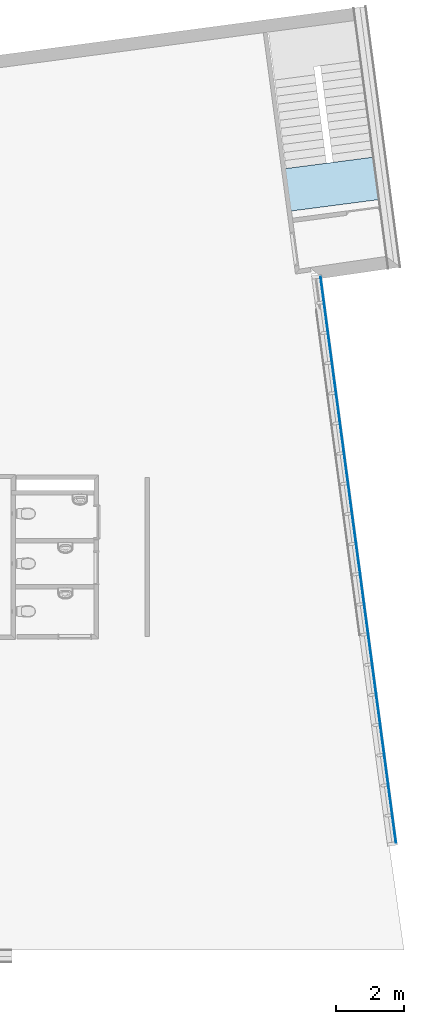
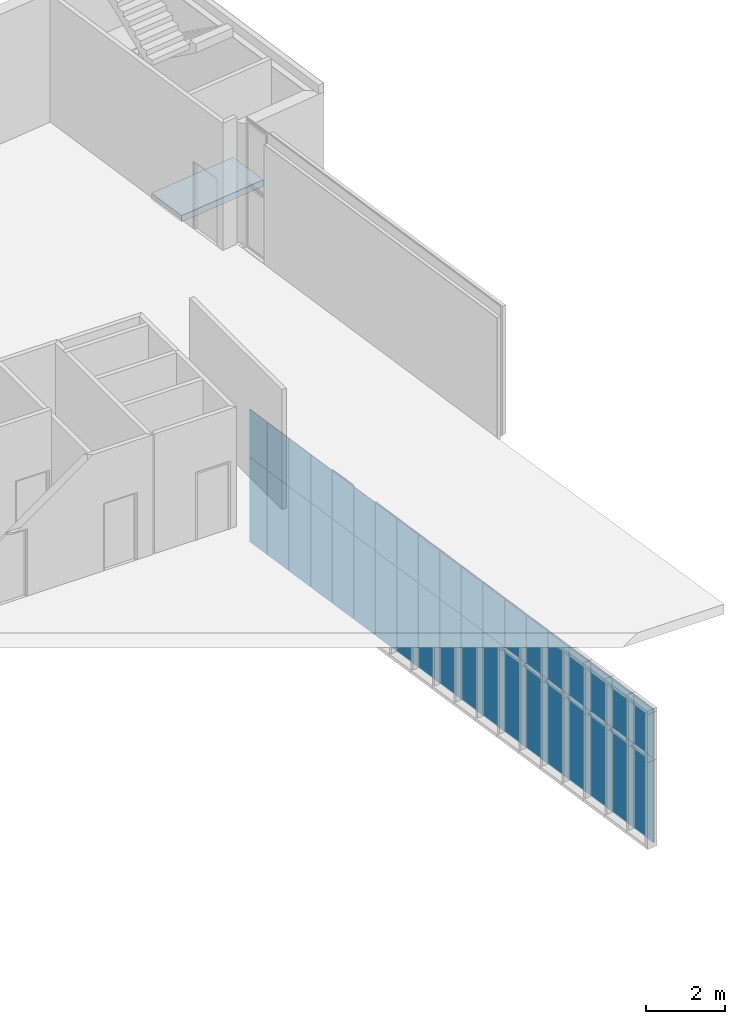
# One storey, part 5 of 17: 52 plates, 1 slab, 1 element without a shape of its own.
"""IFC2X3 building model written with IfcOpenShell, lengths in metres."""

from ifc_helpers import new_model, entity, si_unit, converted_unit, money_unit, direction, frame, origin_with_axes, place, context, subcontext, project, spatial, polyline, outline, extrude, material, layer, layer_set, layer_usage, type_object, element, aggregate, save


model = new_model("IFC2X3")

# Units and contexts
model_context = context("Model", 3, precision=1e-05, world=origin_with_axes(), true_north=direction((0.0, 1.0)))
body_context = subcontext(model_context, "Body", "Model", "MODEL_VIEW")
ifc_project = project(units=[si_unit("LENGTHUNIT", "METRE"), si_unit("AREAUNIT", "SQUARE_METRE"), si_unit("VOLUMEUNIT", "CUBIC_METRE"), converted_unit("PLANEANGLEUNIT", "DEGREE", entity("IfcPlaneAngleMeasure", 0.0174532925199), si_unit("PLANEANGLEUNIT", "RADIAN"), dimensions=[0, 0, 0, 0, 0, 0, 0]), si_unit("SOLIDANGLEUNIT", "STERADIAN"), money_unit("EUR"), converted_unit("TIMEUNIT", "Year", entity("IfcTimeMeasure", 31556926.0), si_unit("TIMEUNIT", "SECOND"), dimensions=[0, 0, 0, 0, 0, 0, 0]), si_unit("MASSUNIT", "GRAM"), si_unit("THERMODYNAMICTEMPERATUREUNIT", "DEGREE_CELSIUS"), si_unit("LUMINOUSINTENSITYUNIT", "LUMEN")], contexts=[model_context])

# Site, building, storey
site_placement = place(None, origin_with_axes())
site = spatial("IfcSite", under=ifc_project, at=site_placement, Name="Undefined", CompositionType="ELEMENT")
building_placement = place(site_placement, origin_with_axes())
building = spatial("IfcBuilding", under=site, at=building_placement, Name="Undefined", CompositionType="ELEMENT")
storey_placement = place(building_placement, frame((0.0, 0.0, 9.425), z_axis=(0.0, 0.0, 1.0), x_axis=(1.0, 0.0, 0.0)))
storey = spatial("IfcBuildingStorey", under=building, at=storey_placement, Name="Mezzannine", CompositionType="ELEMENT", Elevation=9.425)

# Slab
ifc_material_1 = material(Name="% Ê25 359672764")
ifc_layer = layer(ifc_material_1, 0.2, ventilated="UNKNOWN")
ifc_layer_set = layer_set([ifc_layer], Name="% Ê25 359672764 0.2")
ifc_layer_usage = layer_usage(ifc_layer_set, "AXIS3", "NEGATIVE", 0.2)
slab_type = type_object("IfcSlabType", Name="% Ê25 359672764 200", PredefinedType="FLOOR")
slab_placement = place(storey_placement, frame((65.1128249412, 21.8502076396, 0.0), z_axis=(0.0, 0.0, 1.0), x_axis=(1.0, 0.0, 0.0)))
element("IfcSlab", 1, at=slab_placement, inside=storey, type_object=slab_type, material=ifc_layer_usage, Name="SLAB", ObjectType="200*31407", PredefinedType="FLOOR", context=body_context, shape_type="SweptSolid", body=[
    extrude(outline(polyline([(0.0, 0.0), (2.602960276, 0.339444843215), (2.43920218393, 1.59518879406), (-0.163758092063, 1.25574395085), (0.0, 0.0)])), frame((0.0, 0.0, -0.2), z_axis=(0.0, 0.0, 1.0), x_axis=(1.0, 0.0, 0.0)), (0.0, 0.0, 1.0), 0.2),
])

# Curtain wall, plates
curtain_wall_type = type_object("IfcCurtainWallType", Name="Type de mur-rideau", PredefinedType="NOTDEFINED")
curtain_wall_placement = place(storey_placement, frame((66.1412459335, 18.707491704, -9.32500003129), z_axis=(0.0, 0.0, 1.0), x_axis=(1.0, 0.0, 0.0)))
curtain_wall = element("IfcCurtainWall", 2, at=curtain_wall_placement, inside=storey, type_object=curtain_wall_type, Name="CurtainWall_02", ObjectType="CURTAIN WALL")
ifc_material_2 = material(Name="Background 7019220")
plate_type_1 = type_object("IfcPlateType", Name="Panneau secondaire 880 x 2625 x 20", PredefinedType="NOTDEFINED")
plate_1_placement = place(curtain_wall_placement, frame((0.0, 0.0, 1.34999998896), z_axis=(0.0, 0.0, 1.0), x_axis=(0.132091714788, -0.991237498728, 0.0)))
plate_1 = element("IfcPlate", 3, at=plate_1_placement, type_object=plate_type_1, material=ifc_material_2, Name="Panel-Dist-173", context=body_context, shape_type="SweptSolid", body=[
    extrude(outline(polyline([(0.01, 0.169999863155), (0.89, 0.169999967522), (0.89, 2.795), (0.01, 2.795), (0.01, 0.169999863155)])), frame((0.45, 0.0, -1.44999995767), z_axis=(0.0, 1.0, 0.0), x_axis=(-1.0, 0.0, 0.0)), (0.0, 0.0, 1.0), 0.02),
])
plate_2_placement = place(curtain_wall_placement, frame((0.118882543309, -0.892113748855, 1.34999996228), z_axis=(0.0, 0.0, 1.0), x_axis=(0.132091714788, -0.991237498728, 0.0)))
plate_2 = element("IfcPlate", 4, at=plate_2_placement, type_object=plate_type_1, material=ifc_material_2, Name="Panel-Dist-173", context=body_context, shape_type="SweptSolid", body=[
    extrude(outline(polyline([(0.01, 0.169999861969), (0.89, 0.169999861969), (0.89, 2.795), (0.01, 2.795), (0.01, 0.169999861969)])), frame((0.45, 0.0, -1.44999993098), z_axis=(0.0, 1.0, 0.0), x_axis=(-1.0, 0.0, 0.0)), (0.0, 0.0, 1.0), 0.02),
])
plate_3_placement = place(curtain_wall_placement, frame((0.237765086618, -1.78422749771, 1.34999996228), z_axis=(0.0, 0.0, 1.0), x_axis=(0.132091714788, -0.991237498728, 0.0)))
plate_3 = element("IfcPlate", 5, at=plate_3_placement, type_object=plate_type_1, material=ifc_material_2, Name="Panel-Dist-173", context=body_context, shape_type="SweptSolid", body=[
    extrude(outline(polyline([(0.01, 0.169999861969), (0.89, 0.169999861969), (0.89, 2.795), (0.01, 2.795), (0.01, 0.169999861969)])), frame((0.45, 0.0, -1.44999993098), z_axis=(0.0, 1.0, 0.0), x_axis=(-1.0, 0.0, 0.0)), (0.0, 0.0, 1.0), 0.02),
])
plate_4_placement = place(curtain_wall_placement, frame((0.356647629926, -2.67634124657, 1.34999996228), z_axis=(0.0, 0.0, 1.0), x_axis=(0.132091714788, -0.991237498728, 0.0)))
plate_4 = element("IfcPlate", 6, at=plate_4_placement, type_object=plate_type_1, material=ifc_material_2, Name="Panel-Dist-173", context=body_context, shape_type="SweptSolid", body=[
    extrude(outline(polyline([(0.01, 0.169999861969), (0.89, 0.169999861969), (0.89, 2.795), (0.01, 2.795), (0.01, 0.169999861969)])), frame((0.45, 0.0, -1.44999993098), z_axis=(0.0, 1.0, 0.0), x_axis=(-1.0, 0.0, 0.0)), (0.0, 0.0, 1.0), 0.02),
])
plate_5_placement = place(curtain_wall_placement, frame((0.475530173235, -3.56845499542, 1.34999996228), z_axis=(0.0, 0.0, 1.0), x_axis=(0.132091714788, -0.991237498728, 0.0)))
plate_5 = element("IfcPlate", 7, at=plate_5_placement, type_object=plate_type_1, material=ifc_material_2, Name="Panel-Dist-173", context=body_context, shape_type="SweptSolid", body=[
    extrude(outline(polyline([(0.01, 0.169999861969), (0.89, 0.169999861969), (0.89, 2.795), (0.01, 2.795), (0.01, 0.169999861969)])), frame((0.45, 0.0, -1.44999993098), z_axis=(0.0, 1.0, 0.0), x_axis=(-1.0, 0.0, 0.0)), (0.0, 0.0, 1.0), 0.02),
])
plate_6_placement = place(curtain_wall_placement, frame((0.594412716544, -4.46056874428, 1.34999996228), z_axis=(0.0, 0.0, 1.0), x_axis=(0.132091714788, -0.991237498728, 0.0)))
plate_6 = element("IfcPlate", 8, at=plate_6_placement, type_object=plate_type_1, material=ifc_material_2, Name="Panel-Dist-173", context=body_context, shape_type="SweptSolid", body=[
    extrude(outline(polyline([(0.01, 0.169999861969), (0.89, 0.169999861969), (0.89, 2.795), (0.01, 2.795), (0.01, 0.169999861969)])), frame((0.45, 0.0, -1.44999993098), z_axis=(0.0, 1.0, 0.0), x_axis=(-1.0, 0.0, 0.0)), (0.0, 0.0, 1.0), 0.02),
])
plate_7_placement = place(curtain_wall_placement, frame((0.713295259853, -5.35268249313, 1.34999996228), z_axis=(0.0, 0.0, 1.0), x_axis=(0.132091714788, -0.991237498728, 0.0)))
plate_7 = element("IfcPlate", 9, at=plate_7_placement, type_object=plate_type_1, material=ifc_material_2, Name="Panel-Dist-173", context=body_context, shape_type="SweptSolid", body=[
    extrude(outline(polyline([(0.01, 0.169999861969), (0.89, 0.169999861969), (0.89, 2.795), (0.01, 2.795), (0.01, 0.169999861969)])), frame((0.45, 0.0, -1.44999993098), z_axis=(0.0, 1.0, 0.0), x_axis=(-1.0, 0.0, 0.0)), (0.0, 0.0, 1.0), 0.02),
])
plate_8_placement = place(curtain_wall_placement, frame((0.832177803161, -6.24479624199, 1.34999996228), z_axis=(0.0, 0.0, 1.0), x_axis=(0.132091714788, -0.991237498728, 0.0)))
plate_8 = element("IfcPlate", 10, at=plate_8_placement, type_object=plate_type_1, material=ifc_material_2, Name="Panel-Dist-173", context=body_context, shape_type="SweptSolid", body=[
    extrude(outline(polyline([(0.01, 0.169999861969), (0.89, 0.169999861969), (0.89, 2.795), (0.01, 2.795), (0.01, 0.169999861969)])), frame((0.45, 0.0, -1.44999993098), z_axis=(0.0, 1.0, 0.0), x_axis=(-1.0, 0.0, 0.0)), (0.0, 0.0, 1.0), 0.02),
])
plate_9_placement = place(curtain_wall_placement, frame((0.95106034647, -7.13690999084, 1.34999996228), z_axis=(0.0, 0.0, 1.0), x_axis=(0.132091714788, -0.991237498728, 0.0)))
plate_9 = element("IfcPlate", 11, at=plate_9_placement, type_object=plate_type_1, material=ifc_material_2, Name="Panel-Dist-173", context=body_context, shape_type="SweptSolid", body=[
    extrude(outline(polyline([(0.01, 0.169999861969), (0.89, 0.169999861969), (0.89, 2.795), (0.01, 2.795), (0.01, 0.169999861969)])), frame((0.45, 0.0, -1.44999993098), z_axis=(0.0, 1.0, 0.0), x_axis=(-1.0, 0.0, 0.0)), (0.0, 0.0, 1.0), 0.02),
])
plate_10_placement = place(curtain_wall_placement, frame((1.06994288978, -8.0290237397, 1.34999996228), z_axis=(0.0, 0.0, 1.0), x_axis=(0.132091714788, -0.991237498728, 0.0)))
plate_10 = element("IfcPlate", 12, at=plate_10_placement, type_object=plate_type_1, material=ifc_material_2, Name="Panel-Dist-173", context=body_context, shape_type="SweptSolid", body=[
    extrude(outline(polyline([(0.01, 0.169999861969), (0.89, 0.169999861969), (0.89, 2.795), (0.01, 2.795), (0.01, 0.169999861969)])), frame((0.45, 0.0, -1.44999993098), z_axis=(0.0, 1.0, 0.0), x_axis=(-1.0, 0.0, 0.0)), (0.0, 0.0, 1.0), 0.02),
])
plate_11_placement = place(curtain_wall_placement, frame((1.18882543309, -8.92113748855, 1.34999996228), z_axis=(0.0, 0.0, 1.0), x_axis=(0.132091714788, -0.991237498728, 0.0)))
plate_11 = element("IfcPlate", 13, at=plate_11_placement, type_object=plate_type_1, material=ifc_material_2, Name="Panel-Dist-173", context=body_context, shape_type="SweptSolid", body=[
    extrude(outline(polyline([(0.01, 0.169999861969), (0.89, 0.169999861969), (0.89, 2.795), (0.01, 2.795), (0.01, 0.169999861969)])), frame((0.45, 0.0, -1.44999993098), z_axis=(0.0, 1.0, 0.0), x_axis=(-1.0, 0.0, 0.0)), (0.0, 0.0, 1.0), 0.02),
])
plate_12_placement = place(curtain_wall_placement, frame((1.3077079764, -9.81325123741, 1.34999996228), z_axis=(0.0, 0.0, 1.0), x_axis=(0.132091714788, -0.991237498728, 0.0)))
plate_12 = element("IfcPlate", 14, at=plate_12_placement, type_object=plate_type_1, material=ifc_material_2, Name="Panel-Dist-173", context=body_context, shape_type="SweptSolid", body=[
    extrude(outline(polyline([(0.01, 0.169999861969), (0.89, 0.169999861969), (0.89, 2.795), (0.01, 2.795), (0.01, 0.169999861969)])), frame((0.45, 0.0, -1.44999993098), z_axis=(0.0, 1.0, 0.0), x_axis=(-1.0, 0.0, 0.0)), (0.0, 0.0, 1.0), 0.02),
])
plate_13_placement = place(curtain_wall_placement, frame((1.42659051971, -10.7053649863, 1.34999996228), z_axis=(0.0, 0.0, 1.0), x_axis=(0.132091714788, -0.991237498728, 0.0)))
plate_13 = element("IfcPlate", 15, at=plate_13_placement, type_object=plate_type_1, material=ifc_material_2, Name="Panel-Dist-173", context=body_context, shape_type="SweptSolid", body=[
    extrude(outline(polyline([(0.01, 0.169999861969), (0.89, 0.169999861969), (0.89, 2.795), (0.01, 2.795), (0.01, 0.169999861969)])), frame((0.45, 0.0, -1.44999993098), z_axis=(0.0, 1.0, 0.0), x_axis=(-1.0, 0.0, 0.0)), (0.0, 0.0, 1.0), 0.02),
])
plate_14_placement = place(curtain_wall_placement, frame((1.54547306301, -11.5974787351, 1.34999996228), z_axis=(0.0, 0.0, 1.0), x_axis=(0.132091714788, -0.991237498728, 0.0)))
plate_14 = element("IfcPlate", 16, at=plate_14_placement, type_object=plate_type_1, material=ifc_material_2, Name="Panel-Dist-173", context=body_context, shape_type="SweptSolid", body=[
    extrude(outline(polyline([(0.01, 0.169999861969), (0.89, 0.169999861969), (0.89, 2.795), (0.01, 2.795), (0.01, 0.169999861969)])), frame((0.45, 0.0, -1.44999993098), z_axis=(0.0, 1.0, 0.0), x_axis=(-1.0, 0.0, 0.0)), (0.0, 0.0, 1.0), 0.02),
])
plate_15_placement = place(curtain_wall_placement, frame((1.66435560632, -12.489592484, 1.34999996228), z_axis=(0.0, 0.0, 1.0), x_axis=(0.132091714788, -0.991237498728, 0.0)))
plate_15 = element("IfcPlate", 17, at=plate_15_placement, type_object=plate_type_1, material=ifc_material_2, Name="Panel-Dist-173", context=body_context, shape_type="SweptSolid", body=[
    extrude(outline(polyline([(0.01, 0.169999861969), (0.89, 0.169999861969), (0.89, 2.795), (0.01, 2.795), (0.01, 0.169999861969)])), frame((0.45, 0.0, -1.44999993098), z_axis=(0.0, 1.0, 0.0), x_axis=(-1.0, 0.0, 0.0)), (0.0, 0.0, 1.0), 0.02),
])
plate_16_placement = place(curtain_wall_placement, frame((1.78323814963, -13.3817062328, 1.34999996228), z_axis=(0.0, 0.0, 1.0), x_axis=(0.132091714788, -0.991237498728, 0.0)))
plate_16 = element("IfcPlate", 18, at=plate_16_placement, type_object=plate_type_1, material=ifc_material_2, Name="Panel-Dist-173", context=body_context, shape_type="SweptSolid", body=[
    extrude(outline(polyline([(0.01, 0.169999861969), (0.89, 0.169999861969), (0.89, 2.795), (0.01, 2.795), (0.01, 0.169999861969)])), frame((0.45, 0.0, -1.44999993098), z_axis=(0.0, 1.0, 0.0), x_axis=(-1.0, 0.0, 0.0)), (0.0, 0.0, 1.0), 0.02),
])
plate_17_placement = place(curtain_wall_placement, frame((1.90212069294, -14.2738199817, 1.34999996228), z_axis=(0.0, 0.0, 1.0), x_axis=(0.132091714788, -0.991237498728, 0.0)))
plate_17 = element("IfcPlate", 19, at=plate_17_placement, type_object=plate_type_1, material=ifc_material_2, Name="Panel-Dist-173", context=body_context, shape_type="SweptSolid", body=[
    extrude(outline(polyline([(0.01, 0.169999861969), (0.89, 0.169999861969), (0.89, 2.795), (0.01, 2.795), (0.01, 0.169999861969)])), frame((0.45, 0.0, -1.44999993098), z_axis=(0.0, 1.0, 0.0), x_axis=(-1.0, 0.0, 0.0)), (0.0, 0.0, 1.0), 0.02),
])
plate_type_2 = type_object("IfcPlateType", Name="Panneau secondaire 820 x 2625 x 20", PredefinedType="NOTDEFINED")
plate_18_placement = place(curtain_wall_placement, frame((2.02100323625, -15.1659337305, 1.34999996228), z_axis=(0.0, 0.0, 1.0), x_axis=(0.132091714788, -0.991237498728, 0.0)))
plate_18 = element("IfcPlate", 20, at=plate_18_placement, type_object=plate_type_2, material=ifc_material_2, Name="Panel-Dist-173", context=body_context, shape_type="SweptSolid", body=[
    extrude(outline(polyline([(0.89, 0.169999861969), (0.89, 2.795), (0.07, 2.795), (0.07, 0.169999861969), (0.89, 0.169999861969)])), frame((0.45, 0.0, -1.44999993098), z_axis=(0.0, 1.0, 0.0), x_axis=(-1.0, 0.0, 0.0)), (0.0, 0.0, 1.0), 0.02),
])
plate_type_3 = type_object("IfcPlateType", Name="Panneau principal 743 x 1490 x 20", PredefinedType="NOTDEFINED")
plate_19_placement = place(curtain_wall_placement, frame((-0.113776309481, 0.853795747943, 3.45000003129), z_axis=(0.0, 0.0, 1.0), x_axis=(0.132091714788, -0.991237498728, 0.0)))
plate_19 = element("IfcPlate", 21, at=plate_19_placement, type_object=plate_type_3, material=ifc_material_2, Name="Panel-Main-538", context=body_context, shape_type="SweptSolid", body=[
    extrude(outline(polyline([(0.01, 0.005), (0.752686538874, 0.005), (0.752686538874, 1.495), (0.01, 1.495), (0.01, 0.005)])), frame((0.411343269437, 0.0, -0.75), z_axis=(0.0, 1.0, 0.0), x_axis=(-1.0, 0.0, 0.0)), (0.0, 0.0, 1.0), 0.02),
])
plate_type_4 = type_object("IfcPlateType", Name="Panneau secondaire 880 x 25 x 20", PredefinedType="NOTDEFINED")
plate_20_placement = place(curtain_wall_placement, frame((0.594412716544, -4.46056874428, 4.25000001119), z_axis=(0.0, 0.0, 1.0), x_axis=(0.132091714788, -0.991237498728, 0.0)))
plate_20 = element("IfcPlate", 22, at=plate_20_placement, type_object=plate_type_4, material=ifc_material_2, Name="Panel-Dist-196", context=body_context, shape_type="SweptSolid", body=[
    extrude(outline(polyline([(0.01, 0.005), (0.89, 0.005), (0.89, 0.0299999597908), (0.01, 0.0299999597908), (0.01, 0.005)])), frame((0.45, 0.0, -0.0499999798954), z_axis=(0.0, 1.0, 0.0), x_axis=(-1.0, 0.0, 0.0)), (0.0, 0.0, 1.0), 0.02),
])
plate_21_placement = place(curtain_wall_placement, frame((0.713295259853, -5.35268249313, 4.25000001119), z_axis=(0.0, 0.0, 1.0), x_axis=(0.132091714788, -0.991237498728, 0.0)))
plate_21 = element("IfcPlate", 23, at=plate_21_placement, type_object=plate_type_4, material=ifc_material_2, Name="Panel-Dist-195", context=body_context, shape_type="SweptSolid", body=[
    extrude(outline(polyline([(0.89, 0.0299999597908), (0.01, 0.0299999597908), (0.01, 0.005), (0.89, 0.005), (0.89, 0.0299999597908)])), frame((0.45, 0.0, -0.0499999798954), z_axis=(0.0, 1.0, 0.0), x_axis=(-1.0, 0.0, 0.0)), (0.0, 0.0, 1.0), 0.02),
])
plate_22_placement = place(curtain_wall_placement, frame((0.832177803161, -6.24479624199, 4.25000001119), z_axis=(0.0, 0.0, 1.0), x_axis=(0.132091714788, -0.991237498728, 0.0)))
plate_22 = element("IfcPlate", 24, at=plate_22_placement, type_object=plate_type_4, material=ifc_material_2, Name="Panel-Dist-194", context=body_context, shape_type="SweptSolid", body=[
    extrude(outline(polyline([(0.01, 0.005), (0.89, 0.005), (0.89, 0.0299999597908), (0.01, 0.0299999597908), (0.01, 0.005)])), frame((0.45, 0.0, -0.0499999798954), z_axis=(0.0, 1.0, 0.0), x_axis=(-1.0, 0.0, 0.0)), (0.0, 0.0, 1.0), 0.02),
])
plate_23_placement = place(curtain_wall_placement, frame((0.95106034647, -7.13690999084, 4.25000001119), z_axis=(0.0, 0.0, 1.0), x_axis=(0.132091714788, -0.991237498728, 0.0)))
plate_23 = element("IfcPlate", 25, at=plate_23_placement, type_object=plate_type_4, material=ifc_material_2, Name="Panel-Dist-193", context=body_context, shape_type="SweptSolid", body=[
    extrude(outline(polyline([(0.01, 0.005), (0.89, 0.005), (0.89, 0.0299999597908), (0.01, 0.0299999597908), (0.01, 0.005)])), frame((0.45, 0.0, -0.0499999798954), z_axis=(0.0, 1.0, 0.0), x_axis=(-1.0, 0.0, 0.0)), (0.0, 0.0, 1.0), 0.02),
])
plate_24_placement = place(curtain_wall_placement, frame((1.06994288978, -8.0290237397, 4.25000001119), z_axis=(0.0, 0.0, 1.0), x_axis=(0.132091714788, -0.991237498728, 0.0)))
plate_24 = element("IfcPlate", 26, at=plate_24_placement, type_object=plate_type_4, material=ifc_material_2, Name="Panel-Dist-192", context=body_context, shape_type="SweptSolid", body=[
    extrude(outline(polyline([(0.01, 0.005), (0.89, 0.005), (0.89, 0.0299999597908), (0.01, 0.0299999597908), (0.01, 0.005)])), frame((0.45, 0.0, -0.0499999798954), z_axis=(0.0, 1.0, 0.0), x_axis=(-1.0, 0.0, 0.0)), (0.0, 0.0, 1.0), 0.02),
])
plate_25_placement = place(curtain_wall_placement, frame((1.18882543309, -8.92113748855, 4.25000001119), z_axis=(0.0, 0.0, 1.0), x_axis=(0.132091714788, -0.991237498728, 0.0)))
plate_25 = element("IfcPlate", 27, at=plate_25_placement, type_object=plate_type_4, material=ifc_material_2, Name="Panel-Dist-191", context=body_context, shape_type="SweptSolid", body=[
    extrude(outline(polyline([(0.01, 0.005), (0.89, 0.005), (0.89, 0.0299999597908), (0.01, 0.0299999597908), (0.01, 0.005)])), frame((0.45, 0.0, -0.0499999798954), z_axis=(0.0, 1.0, 0.0), x_axis=(-1.0, 0.0, 0.0)), (0.0, 0.0, 1.0), 0.02),
])
plate_26_placement = place(curtain_wall_placement, frame((1.3077079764, -9.81325123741, 4.25000001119), z_axis=(0.0, 0.0, 1.0), x_axis=(0.132091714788, -0.991237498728, 0.0)))
plate_26 = element("IfcPlate", 28, at=plate_26_placement, type_object=plate_type_4, material=ifc_material_2, Name="Panel-Dist-190", context=body_context, shape_type="SweptSolid", body=[
    extrude(outline(polyline([(0.01, 0.005), (0.89, 0.005), (0.89, 0.0299999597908), (0.01, 0.0299999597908), (0.01, 0.005)])), frame((0.45, 0.0, -0.0499999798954), z_axis=(0.0, 1.0, 0.0), x_axis=(-1.0, 0.0, 0.0)), (0.0, 0.0, 1.0), 0.02),
])
plate_27_placement = place(curtain_wall_placement, frame((1.42659051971, -10.7053649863, 4.25000001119), z_axis=(0.0, 0.0, 1.0), x_axis=(0.132091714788, -0.991237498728, 0.0)))
plate_27 = element("IfcPlate", 29, at=plate_27_placement, type_object=plate_type_4, material=ifc_material_2, Name="Panel-Dist-189", context=body_context, shape_type="SweptSolid", body=[
    extrude(outline(polyline([(0.01, 0.005), (0.89, 0.005), (0.89, 0.0299999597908), (0.01, 0.0299999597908), (0.01, 0.005)])), frame((0.45, 0.0, -0.0499999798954), z_axis=(0.0, 1.0, 0.0), x_axis=(-1.0, 0.0, 0.0)), (0.0, 0.0, 1.0), 0.02),
])
plate_28_placement = place(curtain_wall_placement, frame((1.54547306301, -11.5974787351, 4.25000001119), z_axis=(0.0, 0.0, 1.0), x_axis=(0.132091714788, -0.991237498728, 0.0)))
plate_28 = element("IfcPlate", 30, at=plate_28_placement, type_object=plate_type_4, material=ifc_material_2, Name="Panel-Dist-188", context=body_context, shape_type="SweptSolid", body=[
    extrude(outline(polyline([(0.01, 0.005), (0.89, 0.005), (0.89, 0.0299999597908), (0.01, 0.0299999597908), (0.01, 0.005)])), frame((0.45, 0.0, -0.0499999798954), z_axis=(0.0, 1.0, 0.0), x_axis=(-1.0, 0.0, 0.0)), (0.0, 0.0, 1.0), 0.02),
])
plate_29_placement = place(curtain_wall_placement, frame((1.66435560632, -12.489592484, 4.25000001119), z_axis=(0.0, 0.0, 1.0), x_axis=(0.132091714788, -0.991237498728, 0.0)))
plate_29 = element("IfcPlate", 31, at=plate_29_placement, type_object=plate_type_4, material=ifc_material_2, Name="Panel-Dist-187", context=body_context, shape_type="SweptSolid", body=[
    extrude(outline(polyline([(0.01, 0.005), (0.89, 0.005), (0.89, 0.0299999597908), (0.01, 0.0299999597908), (0.01, 0.005)])), frame((0.45, 0.0, -0.0499999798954), z_axis=(0.0, 1.0, 0.0), x_axis=(-1.0, 0.0, 0.0)), (0.0, 0.0, 1.0), 0.02),
])
plate_30_placement = place(curtain_wall_placement, frame((1.78323814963, -13.3817062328, 4.25000001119), z_axis=(0.0, 0.0, 1.0), x_axis=(0.132091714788, -0.991237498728, 0.0)))
plate_30 = element("IfcPlate", 32, at=plate_30_placement, type_object=plate_type_4, material=ifc_material_2, Name="Panel-Dist-186", context=body_context, shape_type="SweptSolid", body=[
    extrude(outline(polyline([(0.01, 0.005), (0.89, 0.005), (0.89, 0.0299999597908), (0.01, 0.0299999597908), (0.01, 0.005)])), frame((0.45, 0.0, -0.0499999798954), z_axis=(0.0, 1.0, 0.0), x_axis=(-1.0, 0.0, 0.0)), (0.0, 0.0, 1.0), 0.02),
])
plate_31_placement = place(curtain_wall_placement, frame((1.90212069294, -14.2738199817, 4.25000001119), z_axis=(0.0, 0.0, 1.0), x_axis=(0.132091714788, -0.991237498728, 0.0)))
plate_31 = element("IfcPlate", 33, at=plate_31_placement, type_object=plate_type_4, material=ifc_material_2, Name="Panel-Dist-185", context=body_context, shape_type="SweptSolid", body=[
    extrude(outline(polyline([(0.01, 0.005), (0.89, 0.005), (0.89, 0.0299999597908), (0.01, 0.0299999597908), (0.01, 0.005)])), frame((0.45, 0.0, -0.0499999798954), z_axis=(0.0, 1.0, 0.0), x_axis=(-1.0, 0.0, 0.0)), (0.0, 0.0, 1.0), 0.02),
])
plate_32_placement = place(curtain_wall_placement, frame((0.356647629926, -2.67634124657, 4.25000001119), z_axis=(0.0, 0.0, 1.0), x_axis=(0.132091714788, -0.991237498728, 0.0)))
plate_32 = element("IfcPlate", 34, at=plate_32_placement, type_object=plate_type_4, material=ifc_material_2, Name="Panel-Dist-198", context=body_context, shape_type="SweptSolid", body=[
    extrude(outline(polyline([(0.01, 0.005), (0.89, 0.005), (0.89, 0.0299999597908), (0.01, 0.0299999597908), (0.01, 0.005)])), frame((0.45, 0.0, -0.0499999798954), z_axis=(0.0, 1.0, 0.0), x_axis=(-1.0, 0.0, 0.0)), (0.0, 0.0, 1.0), 0.02),
])
plate_type_5 = type_object("IfcPlateType", Name="Panneau principal 820 x 1490 x 20", PredefinedType="NOTDEFINED")
plate_33_placement = place(curtain_wall_placement, frame((2.02100323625, -15.1659337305, 3.45000003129), z_axis=(0.0, 0.0, 1.0), x_axis=(0.132091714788, -0.991237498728, 0.0)))
plate_33 = element("IfcPlate", 35, at=plate_33_placement, type_object=plate_type_5, material=ifc_material_2, Name="Panel-Main-538", context=body_context, shape_type="SweptSolid", body=[
    extrude(outline(polyline([(0.07, 0.005), (0.89, 0.005), (0.89, 1.495), (0.07, 1.495), (0.07, 0.005)])), frame((0.45, 0.0, -0.75), z_axis=(0.0, 1.0, 0.0), x_axis=(-1.0, 0.0, 0.0)), (0.0, 0.0, 1.0), 0.02),
])
plate_type_6 = type_object("IfcPlateType", Name="Panneau secondaire 880 x 1490 x 20", PredefinedType="NOTDEFINED")
plate_34_placement = place(curtain_wall_placement, frame((1.90212069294, -14.2738199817, 3.45000003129), z_axis=(0.0, 0.0, 1.0), x_axis=(0.132091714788, -0.991237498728, 0.0)))
plate_34 = element("IfcPlate", 36, at=plate_34_placement, type_object=plate_type_6, material=ifc_material_2, Name="Panel-Dist-173", context=body_context, shape_type="SweptSolid", body=[
    extrude(outline(polyline([(0.01, 0.005), (0.89, 0.005), (0.89, 1.495), (0.01, 1.495), (0.01, 0.005)])), frame((0.45, 0.0, -0.75), z_axis=(0.0, 1.0, 0.0), x_axis=(-1.0, 0.0, 0.0)), (0.0, 0.0, 1.0), 0.02),
])
plate_35_placement = place(curtain_wall_placement, frame((1.66435560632, -12.489592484, 3.45000003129), z_axis=(0.0, 0.0, 1.0), x_axis=(0.132091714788, -0.991237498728, 0.0)))
plate_35 = element("IfcPlate", 37, at=plate_35_placement, type_object=plate_type_6, material=ifc_material_2, Name="Panel-Dist-173", context=body_context, shape_type="SweptSolid", body=[
    extrude(outline(polyline([(0.01, 0.005), (0.89, 0.005), (0.89, 1.495), (0.01, 1.495), (0.01, 0.005)])), frame((0.45, 0.0, -0.75), z_axis=(0.0, 1.0, 0.0), x_axis=(-1.0, 0.0, 0.0)), (0.0, 0.0, 1.0), 0.02),
])
plate_36_placement = place(curtain_wall_placement, frame((1.42659051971, -10.7053649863, 3.45000003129), z_axis=(0.0, 0.0, 1.0), x_axis=(0.132091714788, -0.991237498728, 0.0)))
plate_36 = element("IfcPlate", 38, at=plate_36_placement, type_object=plate_type_6, material=ifc_material_2, Name="Panel-Dist-173", context=body_context, shape_type="SweptSolid", body=[
    extrude(outline(polyline([(0.01, 0.005), (0.89, 0.005), (0.89, 1.495), (0.01, 1.495), (0.01, 0.005)])), frame((0.45, 0.0, -0.75), z_axis=(0.0, 1.0, 0.0), x_axis=(-1.0, 0.0, 0.0)), (0.0, 0.0, 1.0), 0.02),
])
plate_37_placement = place(curtain_wall_placement, frame((1.18882543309, -8.92113748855, 3.45000003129), z_axis=(0.0, 0.0, 1.0), x_axis=(0.132091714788, -0.991237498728, 0.0)))
plate_37 = element("IfcPlate", 39, at=plate_37_placement, type_object=plate_type_6, material=ifc_material_2, Name="Panel-Dist-173", context=body_context, shape_type="SweptSolid", body=[
    extrude(outline(polyline([(0.01, 0.005), (0.89, 0.005), (0.89, 1.495), (0.01, 1.495), (0.01, 0.005)])), frame((0.45, 0.0, -0.75), z_axis=(0.0, 1.0, 0.0), x_axis=(-1.0, 0.0, 0.0)), (0.0, 0.0, 1.0), 0.02),
])
plate_38_placement = place(curtain_wall_placement, frame((0.95106034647, -7.13690999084, 3.45000003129), z_axis=(0.0, 0.0, 1.0), x_axis=(0.132091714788, -0.991237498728, 0.0)))
plate_38 = element("IfcPlate", 40, at=plate_38_placement, type_object=plate_type_6, material=ifc_material_2, Name="Panel-Dist-173", context=body_context, shape_type="SweptSolid", body=[
    extrude(outline(polyline([(0.01, 0.005), (0.89, 0.005), (0.89, 1.495), (0.01, 1.495), (0.01, 0.005)])), frame((0.45, 0.0, -0.75), z_axis=(0.0, 1.0, 0.0), x_axis=(-1.0, 0.0, 0.0)), (0.0, 0.0, 1.0), 0.02),
])
plate_39_placement = place(curtain_wall_placement, frame((0.713295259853, -5.35268249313, 3.45000003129), z_axis=(0.0, 0.0, 1.0), x_axis=(0.132091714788, -0.991237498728, 0.0)))
plate_39 = element("IfcPlate", 41, at=plate_39_placement, type_object=plate_type_6, material=ifc_material_2, Name="Panel-Dist-173", context=body_context, shape_type="SweptSolid", body=[
    extrude(outline(polyline([(0.01, 0.005), (0.89, 0.005), (0.89, 1.495), (0.01, 1.495), (0.01, 0.005)])), frame((0.45, 0.0, -0.75), z_axis=(0.0, 1.0, 0.0), x_axis=(-1.0, 0.0, 0.0)), (0.0, 0.0, 1.0), 0.02),
])
plate_40_placement = place(curtain_wall_placement, frame((0.475530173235, -3.56845499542, 3.45000003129), z_axis=(0.0, 0.0, 1.0), x_axis=(0.132091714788, -0.991237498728, 0.0)))
plate_40 = element("IfcPlate", 42, at=plate_40_placement, type_object=plate_type_6, material=ifc_material_2, Name="Panel-Dist-173", context=body_context, shape_type="SweptSolid", body=[
    extrude(outline(polyline([(0.01, 0.005), (0.89, 0.005), (0.89, 1.495), (0.01, 1.495), (0.01, 0.005)])), frame((0.45, 0.0, -0.75), z_axis=(0.0, 1.0, 0.0), x_axis=(-1.0, 0.0, 0.0)), (0.0, 0.0, 1.0), 0.02),
])
plate_41_placement = place(curtain_wall_placement, frame((0.237765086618, -1.78422749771, 3.45000003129), z_axis=(0.0, 0.0, 1.0), x_axis=(0.132091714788, -0.991237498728, 0.0)))
plate_41 = element("IfcPlate", 43, at=plate_41_placement, type_object=plate_type_6, material=ifc_material_2, Name="Panel-Dist-173", context=body_context, shape_type="SweptSolid", body=[
    extrude(outline(polyline([(0.01, 0.005), (0.89, 0.005), (0.89, 1.495), (0.01, 1.495), (0.01, 0.005)])), frame((0.45, 0.0, -0.75), z_axis=(0.0, 1.0, 0.0), x_axis=(-1.0, 0.0, 0.0)), (0.0, 0.0, 1.0), 0.02),
])
plate_42_placement = place(curtain_wall_placement, frame((0.0, 0.0, 3.45000003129), z_axis=(0.0, 0.0, 1.0), x_axis=(0.132091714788, -0.991237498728, 0.0)))
plate_42 = element("IfcPlate", 44, at=plate_42_placement, type_object=plate_type_6, material=ifc_material_2, Name="Panel-Dist-173", context=body_context, shape_type="SweptSolid", body=[
    extrude(outline(polyline([(0.01, 0.005), (0.89, 0.005), (0.89, 1.495), (0.01, 1.495), (0.01, 0.005)])), frame((0.45, 0.0, -0.75), z_axis=(0.0, 1.0, 0.0), x_axis=(-1.0, 0.0, 0.0)), (0.0, 0.0, 1.0), 0.02),
])
plate_type_7 = type_object("IfcPlateType", Name="Panneau principal 880 x 1490 x 20", PredefinedType="NOTDEFINED")
plate_43_placement = place(curtain_wall_placement, frame((1.78323814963, -13.3817062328, 3.45000003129), z_axis=(0.0, 0.0, 1.0), x_axis=(0.132091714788, -0.991237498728, 0.0)))
plate_43 = element("IfcPlate", 45, at=plate_43_placement, type_object=plate_type_7, material=ifc_material_2, Name="Panel-Main-538", context=body_context, shape_type="SweptSolid", body=[
    extrude(outline(polyline([(0.01, 0.005), (0.89, 0.005), (0.89, 1.495), (0.01, 1.495), (0.01, 0.005)])), frame((0.45, 0.0, -0.75), z_axis=(0.0, 1.0, 0.0), x_axis=(-1.0, 0.0, 0.0)), (0.0, 0.0, 1.0), 0.02),
])
plate_44_placement = place(curtain_wall_placement, frame((1.54547306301, -11.5974787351, 3.45000003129), z_axis=(0.0, 0.0, 1.0), x_axis=(0.132091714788, -0.991237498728, 0.0)))
plate_44 = element("IfcPlate", 46, at=plate_44_placement, type_object=plate_type_7, material=ifc_material_2, Name="Panel-Main-538", context=body_context, shape_type="SweptSolid", body=[
    extrude(outline(polyline([(0.01, 0.005), (0.89, 0.005), (0.89, 1.495), (0.01, 1.495), (0.01, 0.005)])), frame((0.45, 0.0, -0.75), z_axis=(0.0, 1.0, 0.0), x_axis=(-1.0, 0.0, 0.0)), (0.0, 0.0, 1.0), 0.02),
])
plate_45_placement = place(curtain_wall_placement, frame((1.3077079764, -9.81325123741, 3.45000003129), z_axis=(0.0, 0.0, 1.0), x_axis=(0.132091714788, -0.991237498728, 0.0)))
plate_45 = element("IfcPlate", 47, at=plate_45_placement, type_object=plate_type_7, material=ifc_material_2, Name="Panel-Main-538", context=body_context, shape_type="SweptSolid", body=[
    extrude(outline(polyline([(0.01, 0.005), (0.89, 0.005), (0.89, 1.495), (0.01, 1.495), (0.01, 0.005)])), frame((0.45, 0.0, -0.75), z_axis=(0.0, 1.0, 0.0), x_axis=(-1.0, 0.0, 0.0)), (0.0, 0.0, 1.0), 0.02),
])
plate_46_placement = place(curtain_wall_placement, frame((1.06994288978, -8.0290237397, 3.45000003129), z_axis=(0.0, 0.0, 1.0), x_axis=(0.132091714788, -0.991237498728, 0.0)))
plate_46 = element("IfcPlate", 48, at=plate_46_placement, type_object=plate_type_7, material=ifc_material_2, Name="Panel-Main-538", context=body_context, shape_type="SweptSolid", body=[
    extrude(outline(polyline([(0.01, 0.005), (0.89, 0.005), (0.89, 1.495), (0.01, 1.495), (0.01, 0.005)])), frame((0.45, 0.0, -0.75), z_axis=(0.0, 1.0, 0.0), x_axis=(-1.0, 0.0, 0.0)), (0.0, 0.0, 1.0), 0.02),
])
plate_47_placement = place(curtain_wall_placement, frame((0.832177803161, -6.24479624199, 3.45000003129), z_axis=(0.0, 0.0, 1.0), x_axis=(0.132091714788, -0.991237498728, 0.0)))
plate_47 = element("IfcPlate", 49, at=plate_47_placement, type_object=plate_type_7, material=ifc_material_2, Name="Panel-Main-538", context=body_context, shape_type="SweptSolid", body=[
    extrude(outline(polyline([(0.01, 0.005), (0.89, 0.005), (0.89, 1.495), (0.01, 1.495), (0.01, 0.005)])), frame((0.45, 0.0, -0.75), z_axis=(0.0, 1.0, 0.0), x_axis=(-1.0, 0.0, 0.0)), (0.0, 0.0, 1.0), 0.02),
])
plate_48_placement = place(curtain_wall_placement, frame((0.594412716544, -4.46056874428, 3.45000003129), z_axis=(0.0, 0.0, 1.0), x_axis=(0.132091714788, -0.991237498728, 0.0)))
plate_48 = element("IfcPlate", 50, at=plate_48_placement, type_object=plate_type_7, material=ifc_material_2, Name="Panel-Main-538", context=body_context, shape_type="SweptSolid", body=[
    extrude(outline(polyline([(0.01, 0.005), (0.89, 0.005), (0.89, 1.495), (0.01, 1.495), (0.01, 0.005)])), frame((0.45, 0.0, -0.75), z_axis=(0.0, 1.0, 0.0), x_axis=(-1.0, 0.0, 0.0)), (0.0, 0.0, 1.0), 0.02),
])
plate_49_placement = place(curtain_wall_placement, frame((0.356647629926, -2.67634124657, 3.45000003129), z_axis=(0.0, 0.0, 1.0), x_axis=(0.132091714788, -0.991237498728, 0.0)))
plate_49 = element("IfcPlate", 51, at=plate_49_placement, type_object=plate_type_7, material=ifc_material_2, Name="Panel-Main-538", context=body_context, shape_type="SweptSolid", body=[
    extrude(outline(polyline([(0.01, 0.005), (0.89, 0.005), (0.89, 1.495), (0.01, 1.495), (0.01, 0.005)])), frame((0.45, 0.0, -0.75), z_axis=(0.0, 1.0, 0.0), x_axis=(-1.0, 0.0, 0.0)), (0.0, 0.0, 1.0), 0.02),
])
plate_50_placement = place(curtain_wall_placement, frame((0.118882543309, -0.892113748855, 3.45000003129), z_axis=(0.0, 0.0, 1.0), x_axis=(0.132091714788, -0.991237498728, 0.0)))
plate_50 = element("IfcPlate", 52, at=plate_50_placement, type_object=plate_type_7, material=ifc_material_2, Name="Panel-Main-538", context=body_context, shape_type="SweptSolid", body=[
    extrude(outline(polyline([(0.01, 0.005), (0.89, 0.005), (0.89, 1.495), (0.01, 1.495), (0.01, 0.005)])), frame((0.45, 0.0, -0.75), z_axis=(0.0, 1.0, 0.0), x_axis=(-1.0, 0.0, 0.0)), (0.0, 0.0, 1.0), 0.02),
])
plate_type_8 = type_object("IfcPlateType", Name="Panneau secondaire 743 x 2625 x 20", PredefinedType="NOTDEFINED")
plate_51_placement = place(curtain_wall_placement, frame((-0.113776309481, 0.853795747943, 1.35000001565), z_axis=(0.0, 0.0, 1.0), x_axis=(0.132091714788, -0.991237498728, 0.0)))
plate_51 = element("IfcPlate", 53, at=plate_51_placement, type_object=plate_type_8, material=ifc_material_2, Name="Panel-Dist-173", context=body_context, shape_type="SweptSolid", body=[
    extrude(outline(polyline([(0.01, 2.795), (0.01, 0.169999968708), (0.752686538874, 0.169999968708), (0.752686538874, 2.795), (0.01, 2.795)])), frame((0.411343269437, 0.0, -1.44999998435), z_axis=(0.0, 1.0, 0.0), x_axis=(-1.0, 0.0, 0.0)), (0.0, 0.0, 1.0), 0.02),
])
plate_type_9 = type_object("IfcPlateType", Name="Panneau secondaire 820 x 25 x 20", PredefinedType="NOTDEFINED")
plate_52_placement = place(curtain_wall_placement, frame((2.02100323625, -15.1659337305, 4.25000001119), z_axis=(0.0, 0.0, 1.0), x_axis=(0.132091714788, -0.991237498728, 0.0)))
plate_52 = element("IfcPlate", 54, at=plate_52_placement, type_object=plate_type_9, material=ifc_material_2, Name="Panel-Dist-184", context=body_context, shape_type="SweptSolid", body=[
    extrude(outline(polyline([(0.07, 0.005), (0.89, 0.005), (0.89, 0.0299999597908), (0.07, 0.0299999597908), (0.07, 0.005)])), frame((0.45, 0.0, -0.0499999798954), z_axis=(0.0, 1.0, 0.0), x_axis=(-1.0, 0.0, 0.0)), (0.0, 0.0, 1.0), 0.02),
])
aggregate(curtain_wall, [plate_1, plate_2, plate_3, plate_4, plate_5, plate_6, plate_7, plate_8, plate_9, plate_10, plate_11, plate_12, plate_13, plate_14, plate_15, plate_16, plate_17, plate_18, plate_19, plate_20, plate_33, plate_34, plate_43, plate_35, plate_44, plate_36, plate_45, plate_37, plate_46, plate_38, plate_47, plate_39, plate_48, plate_40, plate_49, plate_41, plate_50, plate_42, plate_51, plate_21, plate_22, plate_23, plate_24, plate_25, plate_26, plate_27, plate_28, plate_29, plate_30, plate_31, plate_52, plate_32])

save(model, "model.ifc")
